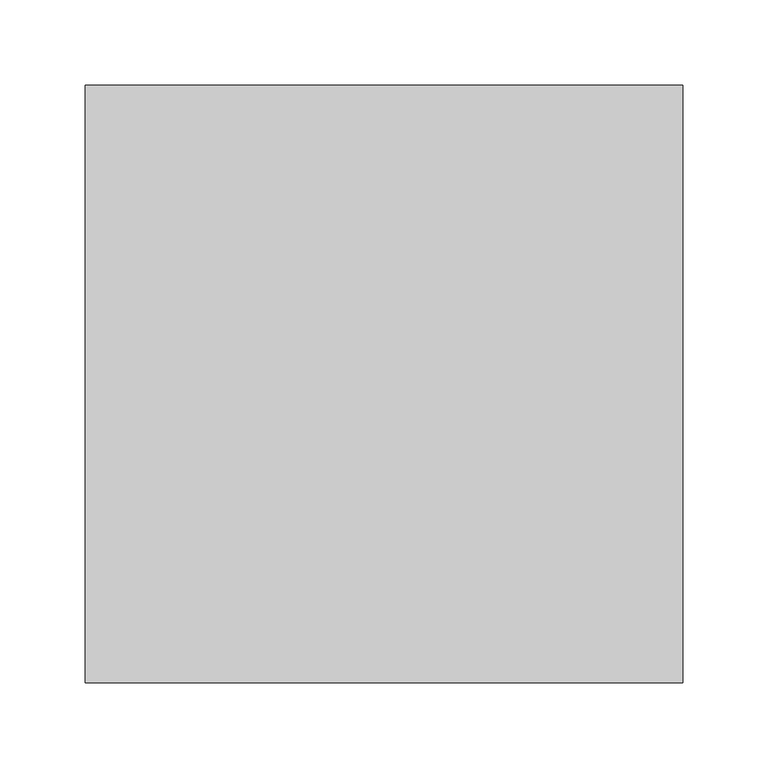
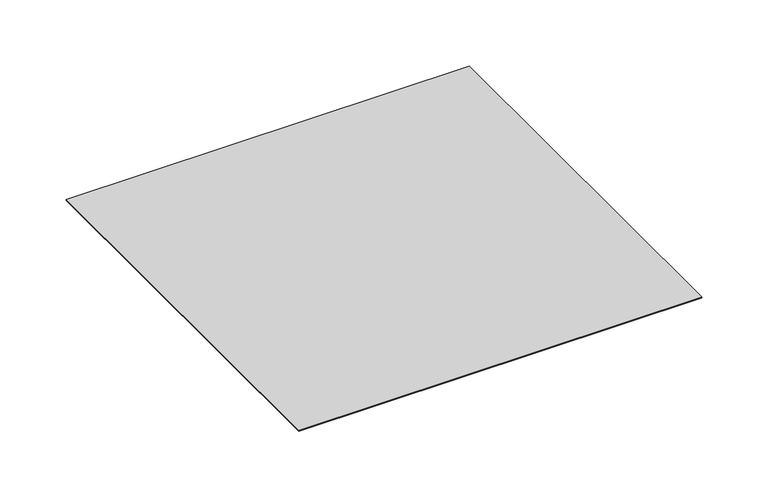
"""IFC4 building model written with IfcOpenShell, lengths in millimetres: proxy geometry, Loggia_Placeholder : Loggia Placeholder."""

import ifcopenshell
import ifcopenshell.guid

model = None  # the IFC model being written
_history = None  # IfcOwnerHistory: only IFC2X3 demands one
_inside = {}  # id of a spatial element -> (the spatial element, [elements in it])
_under = {}  # id of a project, library or spatial element -> (it, [spatial elements below it])
_declared = {}  # id of a project -> (the project, [libraries it declares])
_typed = {}  # id of a type object -> (the type object, [elements of that type])
_made_of = {}  # id of a material, layer set ... -> (it, [elements and type objects made of it])


def new_model(schema):
    """Start an empty IFC model of exactly this schema.

    Asked for "IFC4X3", IfcOpenShell would pick the latest addendum, in which some entities
    have other attributes; the version numbers below select the first issue.
    IFC2X3 requires an IfcOwnerHistory on every rooted entity: one is made here for all.
    """
    global model, _history
    if schema == "IFC4X3":
        model = ifcopenshell.file(schema_version=(4, 3, 0, 0))
    else:
        model = ifcopenshell.file(schema=schema)
    _inside.clear()
    _under.clear()
    _declared.clear()
    _typed.clear()
    _made_of.clear()
    _history = None
    if model.schema == "IFC2X3":
        org = make("IfcOrganization", Name="unknown")
        user = make(
            "IfcPersonAndOrganization",
            ThePerson=make("IfcPerson", FamilyName="unknown"),
            TheOrganization=org,
        )
        app = make(
            "IfcApplication",
            ApplicationDeveloper=org,
            Version="unknown",
            ApplicationFullName="unknown",
            ApplicationIdentifier="unknown",
        )
        _history = make(
            "IfcOwnerHistory",
            OwningUser=user,
            OwningApplication=app,
            ChangeAction="ADDED",
            CreationDate=0,
        )
    return model


def make(cls, **values):
    """One entity of the class cls with the attributes given. An attribute that is None is left unset."""
    return model.create_entity(
        cls, **{name: value for name, value in values.items() if value is not None}
    )


def rooted(cls, **values):
    """An entity with a GlobalId (a new one), such as an element, a storey or a relation."""
    return make(cls, GlobalId=ifcopenshell.guid.new(), OwnerHistory=_history, **values)


def si_unit(unit_type, name, prefix=None):
    """IfcSIUnit, for example si_unit("LENGTHUNIT", "METRE", prefix="MILLI")."""
    return make("IfcSIUnit", UnitType=unit_type, Prefix=prefix, Name=name)


def assignment(units):
    """IfcUnitAssignment: the units of a project."""
    return None if units is None else make("IfcUnitAssignment", Units=units)


def point(xyz):
    """IfcCartesianPoint."""
    return None if xyz is None else make("IfcCartesianPoint", Coordinates=xyz)


def direction(xyz):
    """IfcDirection."""
    return None if xyz is None else make("IfcDirection", DirectionRatios=xyz)


def frame(location, z_axis=None, x_axis=None):
    """IfcAxis2Placement3D, a coordinate frame: its origin and axes. An axis left out is left unset."""
    return make(
        "IfcAxis2Placement3D",
        Location=point(location),
        Axis=direction(z_axis),
        RefDirection=direction(x_axis),
    )


def origin():
    """The frame at (0, 0, 0) with its axes left unset."""
    return frame((0.0, 0.0, 0.0))


def origin_with_axes():
    """The frame at (0, 0, 0) with the z axis (0, 0, 1) and the x axis (1, 0, 0) written out."""
    return frame((0.0, 0.0, 0.0), z_axis=(0.0, 0.0, 1.0), x_axis=(1.0, 0.0, 0.0))


def place(relative_to, where):
    """IfcLocalPlacement: puts the frame where relative to a parent placement (None: the world)."""
    return make(
        "IfcLocalPlacement", PlacementRelTo=relative_to, RelativePlacement=where
    )


def context(
    kind, dimensions, precision=None, world=None, true_north=None, identifier=None
):
    """IfcGeometricRepresentationContext, for example the 3D "Model" context."""
    return make(
        "IfcGeometricRepresentationContext",
        ContextIdentifier=identifier,
        ContextType=kind,
        CoordinateSpaceDimension=dimensions,
        Precision=precision,
        WorldCoordinateSystem=world,
        TrueNorth=true_north,
    )


def project(units=None, contexts=None):
    """IfcProject with its units and contexts."""
    return rooted(
        "IfcProject",
        Name="project",
        RepresentationContexts=contexts,
        UnitsInContext=assignment(units),
    )


def spatial(cls, under=None, at=None, **own):
    """A site, building, storey or space (cls), placed at a placement, below another one or the project."""
    s = rooted(cls, ObjectPlacement=at, **own)
    if under is not None:
        _under.setdefault(under.id(), (under, []))[1].append(s)
    return s


def polyline(points):
    """IfcPolyline through the points."""
    return make("IfcPolyline", Points=[point(p) for p in points])


def outline(outer, holes=None, kind="AREA"):
    """IfcArbitraryClosedProfileDef: a profile drawn as a closed curve; with holes, ...WithVoids."""
    if holes is None:
        return make("IfcArbitraryClosedProfileDef", ProfileType=kind, OuterCurve=outer)
    return make(
        "IfcArbitraryProfileDefWithVoids",
        ProfileType=kind,
        OuterCurve=outer,
        InnerCurves=holes,
    )


def extrude(swept, where, along, depth):
    """IfcExtrudedAreaSolid: the profile swept, set in the frame where, extruded along a direction by depth."""
    return make(
        "IfcExtrudedAreaSolid",
        SweptArea=swept,
        Position=where,
        ExtrudedDirection=direction(along),
        Depth=depth,
    )


def shape(context_of_items, identifier, shape_type, items):
    """IfcShapeRepresentation: the items that make up one representation, for example the "Body"."""
    return make(
        "IfcShapeRepresentation",
        ContextOfItems=context_of_items,
        RepresentationIdentifier=identifier,
        RepresentationType=shape_type,
        Items=items,
    )


def source(mapping_origin, context_of_items, identifier, shape_type, items):
    """IfcRepresentationMap: a shape defined once, which mapped items show again and again."""
    return make(
        "IfcRepresentationMap",
        MappingOrigin=mapping_origin,
        MappedRepresentation=shape(context_of_items, identifier, shape_type, items),
    )


def transform(
    local_origin,
    x_axis=None,
    y_axis=None,
    z_axis=None,
    scale=None,
    scale2=None,
    scale3=None,
    uniform=True,
):
    """IfcCartesianTransformationOperator3D, or its non-uniform kind. x_axis, y_axis, z_axis: its Axis1, 2, 3."""
    if uniform:
        return make(
            "IfcCartesianTransformationOperator3D",
            Axis1=direction(x_axis),
            Axis2=direction(y_axis),
            LocalOrigin=point(local_origin),
            Scale=scale,
            Axis3=direction(z_axis),
        )
    return make(
        "IfcCartesianTransformationOperator3DnonUniform",
        Axis1=direction(x_axis),
        Axis2=direction(y_axis),
        LocalOrigin=point(local_origin),
        Scale=scale,
        Axis3=direction(z_axis),
        Scale2=scale2,
        Scale3=scale3,
    )


def mapped(mapping_source, mapping_target):
    """IfcMappedItem: shows the shape of a source again, moved by a transform."""
    return make(
        "IfcMappedItem", MappingSource=mapping_source, MappingTarget=mapping_target
    )


def made_of(thing, what):
    """Note that an element or type object is made of a material, layer set ...; save() writes the relation."""
    if what is not None:
        _made_of.setdefault(what.id(), (what, []))[1].append(thing)
    return thing


def element(
    cls,
    number,
    at=None,
    inside=None,
    cuts=None,
    type_object=None,
    material=None,
    context=None,
    identifier="Body",
    shape_type=None,
    held_by="IfcProductDefinitionShape",
    body=None,
    shapes=None,
    **own,
):
    """One element of the class cls, such as IfcWall. Its Tag is "e" and its number.

    at: its placement. inside: the storey or other place that contains it. cuts: it is an
    opening in that element (IfcRelVoidsElement). A single representation is given by context,
    identifier, shape_type and body (its items); several are given by shapes. held_by: the class
    of the entity that holds the representations. save() writes the other relations.
    """
    e = rooted(cls, Tag="e%d" % number, ObjectPlacement=at, **own)
    if body is not None:
        shapes = [shape(context, identifier, shape_type, body)]
    if shapes is not None:
        e.Representation = make(held_by, Representations=shapes)
    if inside is not None:
        _inside.setdefault(inside.id(), (inside, []))[1].append(e)
    if cuts is not None:
        rooted(
            "IfcRelVoidsElement", RelatingBuildingElement=cuts, RelatedOpeningElement=e
        )
    if type_object is not None:
        _typed.setdefault(type_object.id(), (type_object, []))[1].append(e)
    return made_of(e, material)


def aggregate(whole, parts):
    """IfcRelAggregates: a whole, such as a stair, and the parts it consists of."""
    return rooted("IfcRelAggregates", RelatingObject=whole, RelatedObjects=parts)


def save(model, path):
    """Write the relations noted so far, then the file.

    IfcRelAggregates (storeys below a building ...), IfcRelContainedInSpatialStructure (elements
    in a storey), IfcRelDefinesByType, IfcRelAssociatesMaterial and IfcRelDeclares: one each for
    every whole, place, type object, material and project.
    """
    for whole, parts in _under.values():
        aggregate(whole, parts)
    for where, things in _inside.values():
        rooted(
            "IfcRelContainedInSpatialStructure",
            RelatedElements=things,
            RelatingStructure=where,
        )
    for kind, things in _typed.values():
        rooted("IfcRelDefinesByType", RelatedObjects=things, RelatingType=kind)
    for what, things in _made_of.values():
        rooted("IfcRelAssociatesMaterial", RelatedObjects=things, RelatingMaterial=what)
    for by, libraries in _declared.values():
        rooted("IfcRelDeclares", RelatingContext=by, RelatedDefinitions=libraries)
    model.write(path)


def generic_models_93d01a9f(model_context):
    return source(origin(), model_context, "Body", "SweptSolid", [
        extrude(outline(polyline([(-175.0, 175.0), (175.0, 175.0), (175.0, -175.0), (-175.0, -175.0), (-175.0, 175.0)])), origin_with_axes(), (0.0, 0.0, 1.0), 0.79375),
    ])


if __name__ == "__main__":
    model = new_model("IFC4")
    model_context = context("Model", 3, world=origin())
    ifc_project = project(units=[si_unit("LENGTHUNIT", "METRE", prefix="MILLI")], contexts=[model_context])
    site = spatial("IfcSite", under=ifc_project)
    building = spatial("IfcBuilding", under=site)
    placement = place(None, origin())
    generic_models_shape = generic_models_93d01a9f(model_context)
    element("IfcBuildingElementProxy", 1, Name="Loggia_Placeholder : Loggia Placeholder", ObjectType="Loggia_Placeholder : Loggia Placeholder", at=placement, inside=building, context=model_context, shape_type="MappedRepresentation", body=[
        mapped(generic_models_shape, transform((0.0, 0.0, 0.0), x_axis=(1.0, 0.0, 0.0), y_axis=(0.0, 1.0, 0.0), z_axis=(0.0, 0.0, 1.0))),
    ])
    save(model, "model.ifc")
